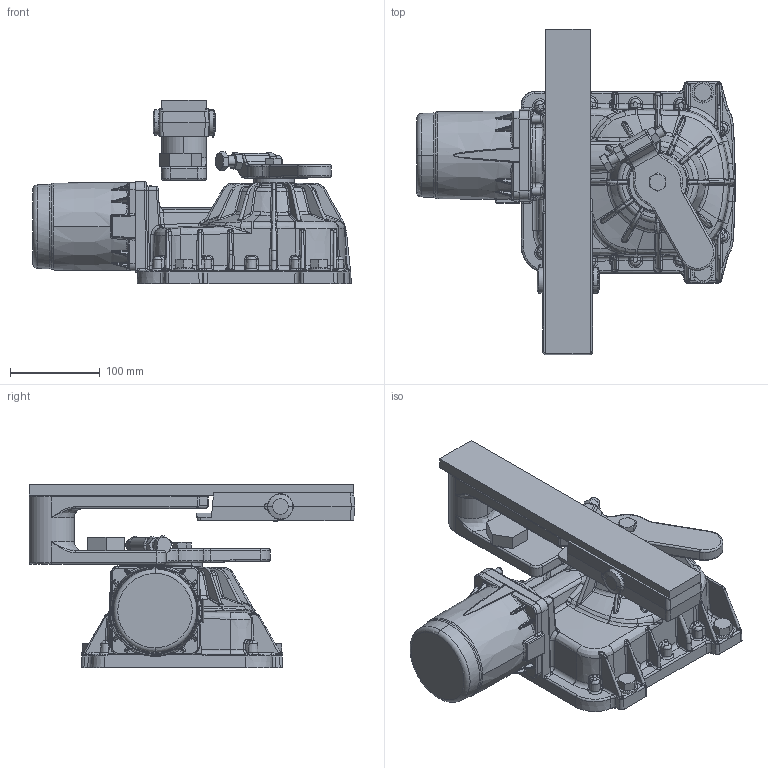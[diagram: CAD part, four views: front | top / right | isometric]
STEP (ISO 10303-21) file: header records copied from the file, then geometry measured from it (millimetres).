
FILE_DESCRIPTION (( 'STEP AP214' ), '1' );
FILE_NAME ('ASSIEME R21.STEP', '2017-02-20T15:19:50', ( 'admin' ), ( 'Microsoft' ), 'SwSTEP 2.0', 'SolidWorks 2016', '' );
FILE_SCHEMA (( 'AUTOMOTIVE_DESIGN' ));
Length unit declared in the file: millimetre
Products named in the file (1): ASSIEME R21
Bounding box: 354 x 362.19 x 204 mm (x, y, z)
Volume: 4916572.8 mm3; surface area: 433206.7 mm2
Topology: 22 solids, 33 shells, 1959 faces, 4728 edges, 2824 vertices
Faces by surface type: bspline 888, cylinder 384, plane 346, cone 228, torus 95, sphere 18
Entity records: 143108 total; most frequent: CARTESIAN_POINT 86085, ORIENTED_EDGE 9430, EDGE_CURVE 4715, DIRECTION 4478, VERTEX_POINT 2824, B_SPLINE_CURVE_WITH_KNOTS 2212, UNCERTAINTY_MEASURE_WITH_UNIT 1983, SURFACE_STYLE_FILL_AREA 1982
